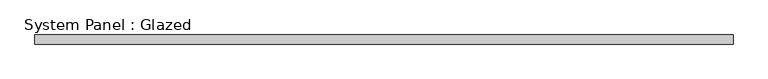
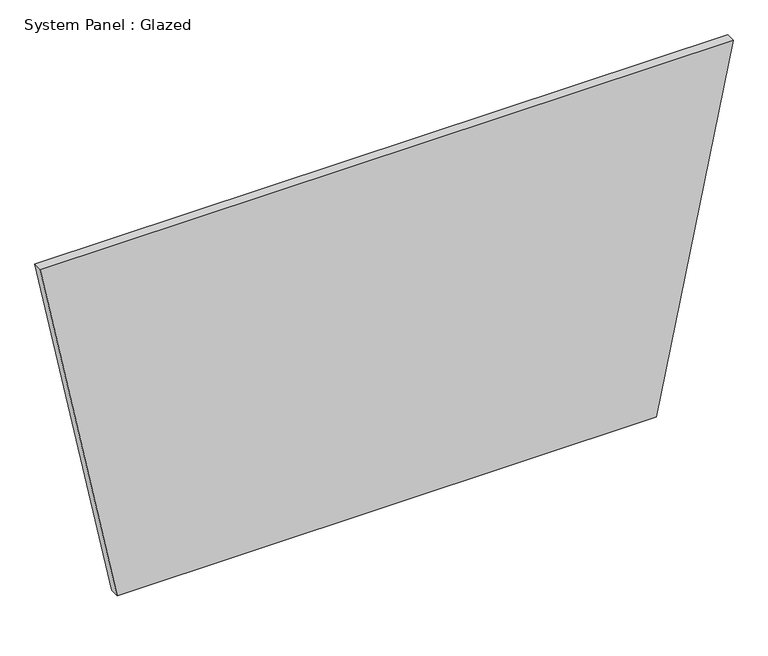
"""IFC4 building model written with IfcOpenShell, lengths in millimetres: plate geometry, System Panel : Glazed."""

from ifc_helpers import new_model, si_unit, frame, origin, place, context, project, spatial, polyline, outline, extrude, source, transform, mapped, element, save


def system_panel_glazed_a47debd1(model_context):
    return source(origin(), model_context, "Body", "SweptSolid", [
        extrude(outline(polyline([(0.0, -757.048994), (0.0, 757.048994), (1044.7235015, 972.9541711), (1044.7235015, -972.9541711), (0.0, -757.048994)])), frame((0.0, -44.45, 0.0), z_axis=(0.0, 1.0, 0.0), x_axis=(0.0, 0.0, 1.0)), (0.0, 0.0, 1.0), 25.4),
    ])


if __name__ == "__main__":
    model = new_model("IFC4")
    model_context = context("Model", 3, world=origin())
    ifc_project = project(units=[si_unit("LENGTHUNIT", "METRE", prefix="MILLI")], contexts=[model_context])
    site = spatial("IfcSite", under=ifc_project)
    building = spatial("IfcBuilding", under=site)
    placement = place(None, origin())
    system_panel_glazed_shape = system_panel_glazed_a47debd1(model_context)
    element("IfcPlate", 1, ObjectType="System Panel : Glazed", at=placement, inside=building, context=model_context, shape_type="MappedRepresentation", body=[
        mapped(system_panel_glazed_shape, transform((0.0, 0.0, 0.0), x_axis=(1.0, 0.0, 0.0), y_axis=(0.0, 1.0, 0.0), z_axis=(0.0, 0.0, 1.0))),
    ])
    save(model, "model.ifc")
